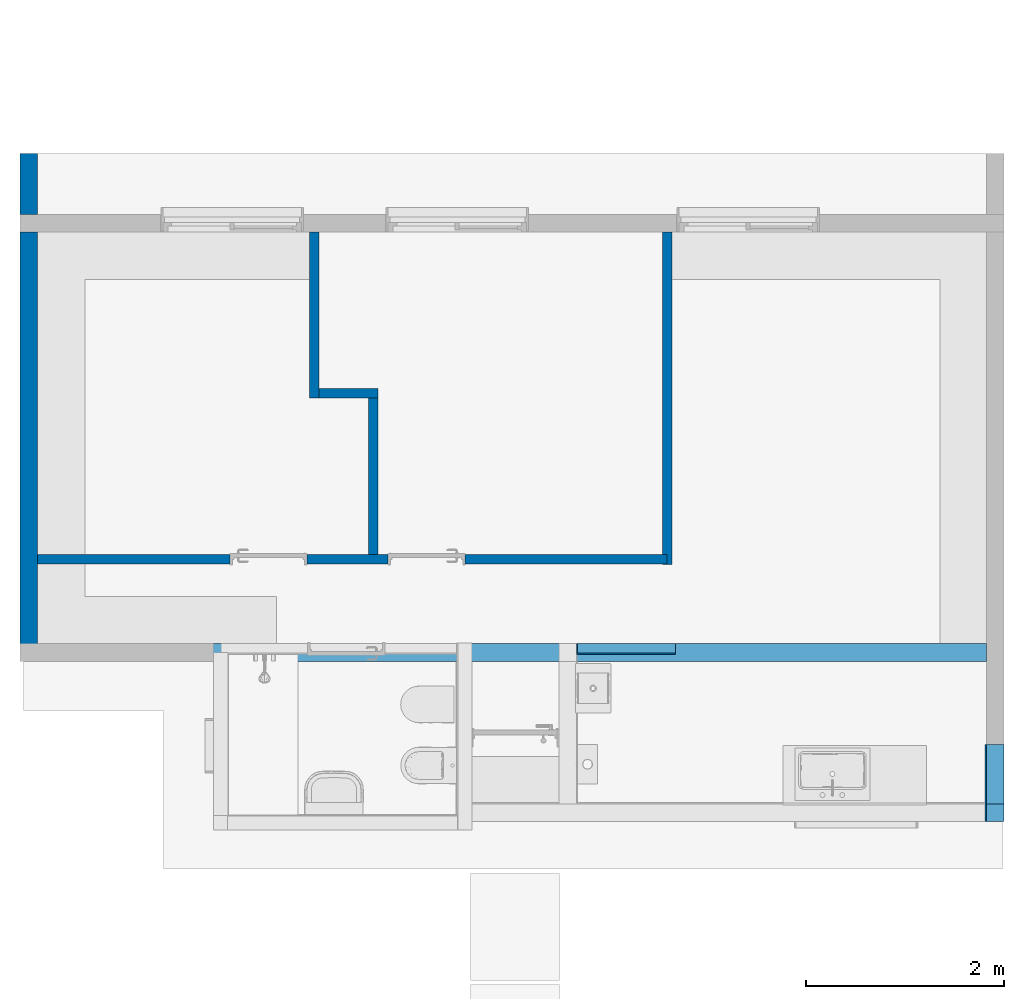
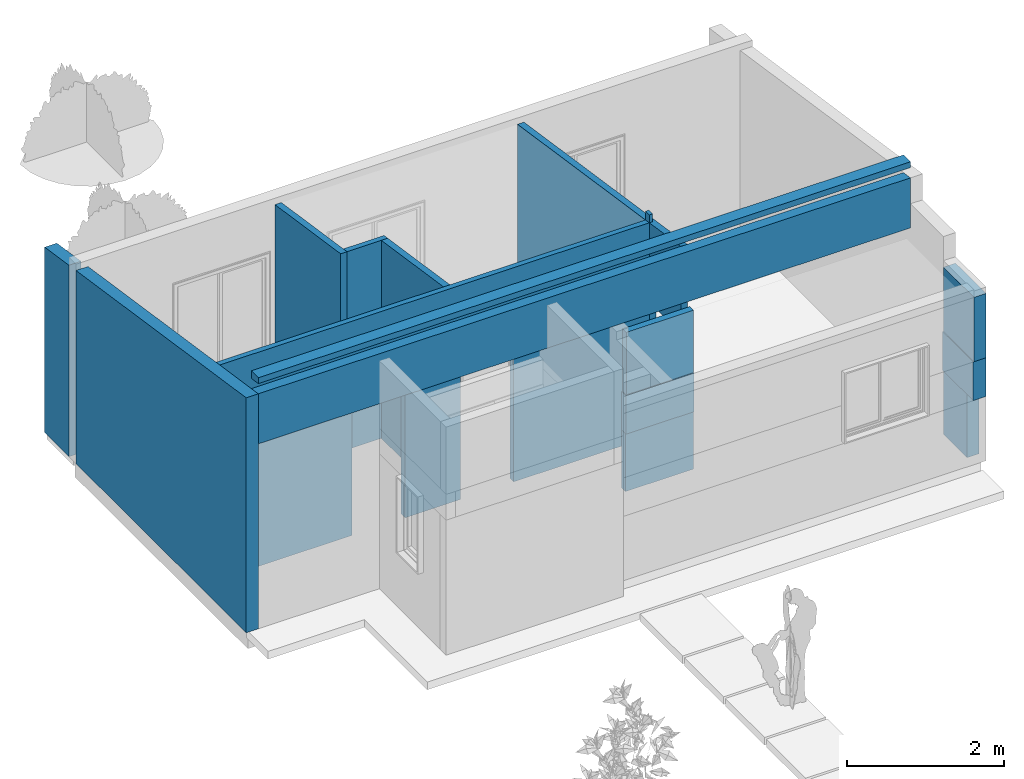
# One storey, part 2 of 10: 14 walls, 4 openings.
"""IFC2X3 building model written with IfcOpenShell, lengths in metres."""

from ifc_helpers import new_model, entity, si_unit, converted_unit, derived_unit, direction, frame, frame_2d, origin, origin_2d_with_axis, place, context, subcontext, project, spatial, polyline, rectangle, extrude, clip, bounded_halfspace, material, layer, layer_set, layer_usage, type_object, element, save


model = new_model("IFC2X3")

# Units and contexts
model_context = context("Model", 3, precision=1e-05, world=origin(), true_north=direction((6.12303176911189e-17, 1.0)))
body_context = subcontext(model_context, "Body", "Model", "MODEL_VIEW")
ifc_project = project(units=[si_unit("LENGTHUNIT", "METRE"), si_unit("AREAUNIT", "SQUARE_METRE"), si_unit("VOLUMEUNIT", "CUBIC_METRE"), converted_unit("PLANEANGLEUNIT", "DEGREE", entity("IfcRatioMeasure", 0.0174532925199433), si_unit("PLANEANGLEUNIT", "RADIAN"), dimensions=[0, 0, 0, 0, 0, 0, 0]), si_unit("MASSUNIT", "GRAM", prefix="KILO"), derived_unit("MASSDENSITYUNIT", [(si_unit("MASSUNIT", "GRAM", prefix="KILO"), 1), (si_unit("LENGTHUNIT", "METRE"), -3)]), si_unit("TIMEUNIT", "SECOND"), si_unit("FREQUENCYUNIT", "HERTZ"), si_unit("THERMODYNAMICTEMPERATUREUNIT", "DEGREE_CELSIUS"), derived_unit("THERMALTRANSMITTANCEUNIT", [(si_unit("MASSUNIT", "GRAM", prefix="KILO"), 1), (si_unit("THERMODYNAMICTEMPERATUREUNIT", "KELVIN"), -1), (si_unit("TIMEUNIT", "SECOND"), -3)]), derived_unit("VOLUMETRICFLOWRATEUNIT", [(si_unit("LENGTHUNIT", "METRE"), 3), (si_unit("TIMEUNIT", "SECOND"), -1)]), si_unit("ELECTRICCURRENTUNIT", "AMPERE"), si_unit("ELECTRICVOLTAGEUNIT", "VOLT"), si_unit("POWERUNIT", "WATT"), si_unit("FORCEUNIT", "NEWTON", prefix="KILO"), si_unit("ILLUMINANCEUNIT", "LUX"), si_unit("LUMINOUSFLUXUNIT", "LUMEN"), si_unit("LUMINOUSINTENSITYUNIT", "CANDELA"), derived_unit("USERDEFINED", [(si_unit("MASSUNIT", "GRAM", prefix="KILO"), -1), (si_unit("LENGTHUNIT", "METRE"), -2), (si_unit("TIMEUNIT", "SECOND"), 3), (si_unit("LUMINOUSFLUXUNIT", "LUMEN"), 1)]), derived_unit("LINEARVELOCITYUNIT", [(si_unit("LENGTHUNIT", "METRE"), 1), (si_unit("TIMEUNIT", "SECOND"), -1)]), si_unit("PRESSUREUNIT", "PASCAL"), derived_unit("USERDEFINED", [(si_unit("LENGTHUNIT", "METRE"), -2), (si_unit("MASSUNIT", "GRAM", prefix="KILO"), 1), (si_unit("TIMEUNIT", "SECOND"), -2)])], contexts=[model_context])

# Site, building, storey
site_placement = place(None, origin())
site = spatial("IfcSite", under=ifc_project, at=site_placement, Name="Surface", CompositionType="ELEMENT")
building_placement = place(site_placement, origin())
building = spatial("IfcBuilding", under=site, at=building_placement, CompositionType="ELEMENT")
storey_placement = place(building_placement, origin())
storey = spatial("IfcBuildingStorey", under=building, at=storey_placement, Name="Nivel 0.0", CompositionType="ELEMENT", Elevation=0.0)

# Wall
ifc_material_1 = material(Name="EIFS")
ifc_layer_1 = layer(ifc_material_1, 0.05)
ifc_material_2 = material(Name="Aislación hidrófuga")
ifc_layer_2 = layer(ifc_material_2, 0.005)
ifc_material_3 = material(Name="OSB")
ifc_layer_3 = layer(ifc_material_3, 0.011)
ifc_material_4 = material(Name="Bastidor metálico")
ifc_layer_4 = layer(ifc_material_4, 0.1)
ifc_material_5 = material(Name="Placa cementicia")
ifc_layer_5 = layer(ifc_material_5, 0.012)
ifc_layer_set_1 = layer_set([ifc_layer_1, ifc_layer_2, ifc_layer_3, ifc_layer_4, ifc_layer_5], Name="Basic Wall:Pe-SF-001")
ifc_layer_usage_1 = layer_usage(ifc_layer_set_1, "AXIS2", "POSITIVE", -0.089)
wall_type_1 = type_object("IfcWallType", Name="Basic Wall:Pe-SF-001", PredefinedType="STANDARD", material=ifc_layer_set_1)
wall_1_placement = place(storey_placement, frame((-8.91933547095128, 3.3208520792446, -0.175816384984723), z_axis=(0.0, 0.0, 1.0), x_axis=(0.0, -1.0, 0.0)))
element("IfcWallStandardCase", 1, at=wall_1_placement, inside=storey, type_object=wall_type_1, material=ifc_layer_usage_1, Name="Basic Wall:Pe-SF-001", ObjectType="Basic Wall:Pe-SF-001", context=body_context, shape_type="Clipping", body=[
    clip(extrude(rectangle(XDim=0.616637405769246, YDim=0.178000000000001, at=frame_2d((0.308318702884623, -6.93889390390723e-18), x_axis=(-1.0, 0.0))), origin(), (0.0, 0.0, 1.0), 2.9764956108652), bounded_halfspace(frame((0.0, -0.0889999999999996, 2.88399999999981), z_axis=(-0.148340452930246, 0.0, 0.988936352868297), x_axis=(0.0, -1.0, 0.0)), False, frame((0.0, -0.0889999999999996, 2.88399999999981)), polyline([(0.0, 0.0), (0.616637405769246, 0.0), (0.616637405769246, 0.178), (0.0, 0.178), (0.0, 0.0)]))),
])

# Wall, opening
ifc_layer_usage_2 = layer_usage(ifc_layer_set_1, "AXIS2", "POSITIVE", -0.089)
wall_2_placement = place(storey_placement, frame((-8.83008547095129, -1.72304870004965, 2.69999999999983)))
wall_2 = element("IfcWallStandardCase", 2, at=wall_2_placement, inside=storey, type_object=wall_type_1, material=ifc_layer_usage_2, Name="Basic Wall:Pe-SF-001", ObjectType="Basic Wall:Pe-SF-001", context=body_context, shape_type="SweptSolid", body=[
    extrude(rectangle(XDim=9.59150000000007, YDim=0.178, at=frame_2d((4.79575000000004, 9.71445146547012e-17), x_axis=(-1.0, 0.0))), origin(), (0.0, 0.0, 1.0), 1.02820141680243),
])
opening_1_placement = place(storey_placement, frame((-8.83008547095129, -1.72304870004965, 2.69999999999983)))
element("IfcOpeningElement", 3, at=opening_1_placement, cuts=wall_2, Name="Basic Wall:Pe-SF-001:1", ObjectType="Opening", context=body_context, shape_type="SweptSolid", body=[
    extrude(rectangle(XDim=0.179991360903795, YDim=9.59150000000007, at=frame_2d((-0.522788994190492, -0.0299985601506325), x_axis=(0.0, 1.0))), frame((5.31853899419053, 0.0296666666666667, 0.760318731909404), z_axis=(0.0, 0.148340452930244, 0.988936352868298), x_axis=(1.0, 0.0, 0.0)), (0.0, -0.148340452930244, 0.988936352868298), 0.159226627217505),
])

# Walls
ifc_layer_6 = layer(ifc_material_1, 0.05)
ifc_layer_7 = layer(ifc_material_2, 0.005)
ifc_layer_8 = layer(ifc_material_3, 0.011)
ifc_layer_9 = layer(ifc_material_4, 0.1)
ifc_material_6 = material(Name="Placa roca de Yeso 12,5mm")
ifc_layer_10 = layer(ifc_material_6, 0.012)
ifc_layer_set_2 = layer_set([ifc_layer_6, ifc_layer_7, ifc_layer_8, ifc_layer_9, ifc_layer_10], Name="Basic Wall:Pe-SF-002")
ifc_layer_usage_3 = layer_usage(ifc_layer_set_2, "AXIS2", "POSITIVE", -0.089)
wall_type_2 = type_object("IfcWallType", Name="Basic Wall:Pe-SF-002", PredefinedType="STANDARD", material=ifc_layer_set_2)
wall_3_placement = place(storey_placement, frame((0.850414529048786, -3.43054870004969, 1.6), z_axis=(0.0, 0.0, 1.0), x_axis=(0.0, 1.0, 0.0)))
element("IfcWallStandardCase", 4, at=wall_3_placement, inside=storey, type_object=wall_type_2, material=ifc_layer_usage_3, Name="Basic Wall:Pe-SF-002", ObjectType="Basic Wall:Pe-SF-002", context=body_context, shape_type="SweptSolid", body=[
    extrude(rectangle(XDim=0.77876337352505, YDim=0.178, at=frame_2d((0.389381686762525, 2.08166817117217e-17), x_axis=(-1.0, 0.0))), origin(), (0.0, 0.0, 1.0), 1.0),
])
ifc_layer_usage_4 = layer_usage(ifc_layer_set_2, "AXIS2", "POSITIVE", -0.089)
wall_4_placement = place(storey_placement, frame((-8.91908547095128, 2.52621467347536, -0.175), z_axis=(0.0, 0.0, 1.0), x_axis=(0.0, -1.0, 0.0)))
element("IfcWallStandardCase", 5, at=wall_4_placement, inside=storey, type_object=wall_type_2, material=ifc_layer_usage_4, Name="Basic Wall:Pe-SF-002", ObjectType="Basic Wall:Pe-SF-002", context=body_context, shape_type="Clipping", body=[
    clip(clip(clip(extrude(rectangle(XDim=4.33826337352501, YDim=0.178000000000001, at=frame_2d((2.1691316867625, -7.63278329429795e-17), x_axis=(-1.0, 0.0))), origin(), (0.0, 0.0, 1.0), 3.65311873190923), bounded_halfspace(frame((0.0, -0.0889999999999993, 3.00237922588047), z_axis=(-0.148340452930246, 0.0, 0.988936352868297), x_axis=(0.0, -1.0, 0.0)), False, frame((0.0, -0.0889999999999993, 3.00237922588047)), polyline([(0.0, 0.0), (4.33826337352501, 0.0), (4.33826337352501, 0.177999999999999), (3.35593684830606, 0.177999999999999), (3.26093684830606, 0.178), (0.0, 0.178), (0.0, 0.0)]))), bounded_halfspace(frame((4.16076337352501, -0.0339999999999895, 0.15)), True, frame((4.16076337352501, -0.0339999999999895, 0.15)), polyline([(0.0, 0.0), (0.0, 0.122999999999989), (-4.16076337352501, 0.122999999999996), (-4.16076337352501, 0.0), (0.0, 0.0)]))), bounded_halfspace(frame((0.0, -0.0339999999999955, 0.15), z_axis=(0.0, -1.0, 0.0), x_axis=(0.0, 0.0, 1.0)), True, frame((0.0, -0.0339999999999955, 0.15), z_axis=(0.0, -1.0, 0.0), x_axis=(0.0, 0.0, 1.0)), polyline([(0.0, 0.0), (-0.15, 0.0), (-0.15, -4.16076337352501), (0.0, -4.16076337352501), (0.0, 0.0)]))),
])
ifc_layer_usage_5 = layer_usage(ifc_layer_set_2, "AXIS2", "POSITIVE", -0.089)
wall_5_placement = place(storey_placement, frame((0.850414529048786, -3.25254870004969, 0.0), z_axis=(0.0, 0.0, 1.0), x_axis=(0.0, 1.0, 0.0)))
element("IfcWallStandardCase", 6, at=wall_5_placement, inside=storey, type_object=wall_type_2, material=ifc_layer_usage_5, Name="Basic Wall:Pe-SF-002", ObjectType="Basic Wall:Pe-SF-002", context=body_context, shape_type="SweptSolid", body=[
    extrude(rectangle(XDim=0.600763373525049, YDim=0.178, at=frame_2d((0.300381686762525, 1.38777878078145e-17), x_axis=(-1.0, 0.0))), origin(), (0.0, 0.0, 1.0), 1.0),
])
ifc_layer_11 = layer(ifc_material_6, 0.0125)
ifc_layer_12 = layer(ifc_material_4, 0.07)
ifc_layer_13 = layer(ifc_material_6, 0.0125)
ifc_layer_set_3 = layer_set([ifc_layer_11, ifc_layer_12, ifc_layer_13], Name="Basic Wall:Pi-SF-050")
ifc_layer_usage_6 = layer_usage(ifc_layer_set_3, "AXIS2", "NEGATIVE", 0.0475)
wall_type_3 = type_object("IfcWallType", Name="Basic Wall:Pi-SF-050", PredefinedType="STANDARD", material=ifc_layer_set_3)
wall_6_placement = place(storey_placement, frame((-6.03458559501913, 2.52621467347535, 0.0), z_axis=(0.0, 0.0, 1.0), x_axis=(0.0, -1.0, 0.0)))
element("IfcWallStandardCase", 7, at=wall_6_placement, inside=storey, type_object=wall_type_3, material=ifc_layer_usage_6, Name="Basic Wall:Pi-SF-050", ObjectType="Basic Wall:Pi-SF-050", context=body_context, shape_type="Clipping", body=[
    clip(extrude(rectangle(XDim=1.67500028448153, YDim=0.0950000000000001, at=frame_2d((0.837500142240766, 5.20417042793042e-17), x_axis=(-1.0, 0.0))), origin(), (0.0, 0.0, 1.0), 3.07862926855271), bounded_halfspace(frame((0.0, -0.0475000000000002, 2.82737922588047), z_axis=(-0.148340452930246, 0.0, 0.988936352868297), x_axis=(0.0, -1.0, 0.0)), False, frame((0.0, -0.0475000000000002, 2.82737922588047)), polyline([(0.0, 0.0), (1.67500028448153, 0.0), (1.67500028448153, 0.0950000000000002), (1.58000028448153, 0.095), (0.0, 0.0950000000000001), (0.0, 0.0)]))),
])
ifc_layer_usage_7 = layer_usage(ifc_layer_set_3, "AXIS2", "NEGATIVE", 0.0475)
wall_7_placement = place(storey_placement, frame((-5.98708559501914, 0.898714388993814, 0.0)))
element("IfcWallStandardCase", 8, at=wall_7_placement, inside=storey, type_object=wall_type_3, material=ifc_layer_usage_7, Name="Basic Wall:Pi-SF-050", ObjectType="Basic Wall:Pi-SF-050", context=body_context, shape_type="Clipping", body=[
    clip(extrude(rectangle(XDim=0.597499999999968, YDim=0.0950000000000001, at=frame_2d((0.298749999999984, -3.46944695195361e-18), x_axis=(-1.0, 0.0))), origin(), (0.0, 0.0, 1.0), 3.07862926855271), bounded_halfspace(frame((0.0, -0.0475, 3.0786292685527), z_axis=(0.0, 0.148340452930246, 0.988936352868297), x_axis=(-1.0, 0.0, 0.0)), False, frame((0.0, -0.0475, 3.0786292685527)), polyline([(0.0, 0.0), (0.502499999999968, 0.0), (0.597499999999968, 0.0), (0.597499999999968, 0.0950000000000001), (0.0, 0.0950000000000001), (0.0, 0.0)]))),
])
ifc_layer_usage_8 = layer_usage(ifc_layer_set_3, "AXIS2", "POSITIVE", -0.0475)
wall_8_placement = place(storey_placement, frame((-5.43708559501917, 0.851214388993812, 0.0), z_axis=(0.0, 0.0, 1.0), x_axis=(0.0, -1.0, 0.0)))
element("IfcWallStandardCase", 9, at=wall_8_placement, inside=storey, type_object=wall_type_3, material=ifc_layer_usage_8, Name="Basic Wall:Pi-SF-050", ObjectType="Basic Wall:Pi-SF-050", context=body_context, shape_type="Clipping", body=[
    clip(extrude(rectangle(XDim=1.58593656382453, YDim=0.0950000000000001, at=frame_2d((0.792968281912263, 0.0), x_axis=(-1.0, 0.0))), origin(), (0.0, 0.0, 1.0), 3.31651975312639), bounded_halfspace(frame((0.0, -0.0475, 3.07862926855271), z_axis=(-0.148340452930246, 0.0, 0.988936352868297), x_axis=(0.0, -1.0, 0.0)), False, frame((0.0, -0.0475, 3.07862926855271)), polyline([(0.0, 0.0), (1.58593656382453, 0.0), (1.58593656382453, 0.0950000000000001), (0.0, 0.0950000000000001), (0.0, 0.0)]))),
])

# Wall, openings
ifc_layer_usage_9 = layer_usage(ifc_layer_set_3, "AXIS2", "NEGATIVE", 0.0475)
wall_9_placement = place(storey_placement, frame((-8.83008547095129, -0.782222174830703, 0.0)))
wall_9 = element("IfcWallStandardCase", 10, at=wall_9_placement, inside=storey, type_object=wall_type_3, material=ifc_layer_usage_9, Name="Basic Wall:Pi-SF-050", ObjectType="Basic Wall:Pi-SF-050", context=body_context, shape_type="Clipping", body=[
    clip(extrude(rectangle(XDim=6.36411698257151, YDim=0.0950000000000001, at=frame_2d((3.18205849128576, -3.12250225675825e-17), x_axis=(-1.0, 0.0))), origin(), (0.0, 0.0, 1.0), 3.33076975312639), bounded_halfspace(frame((0.0, -0.0474999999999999, 3.33076975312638), z_axis=(0.0, 0.148340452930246, 0.988936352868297), x_axis=(-1.0, 0.0, 0.0)), False, frame((0.0, -0.0474999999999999, 3.33076975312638)), polyline([(0.0, 0.0), (6.31661698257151, 0.0), (6.36411698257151, 0.0), (6.36411698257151, 0.0949999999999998), (6.31661698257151, 0.0949999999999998), (3.44049987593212, 0.0949999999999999), (3.34549987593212, 0.0949999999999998), (0.0, 0.0949999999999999), (0.0, 0.0)]))),
])
opening_2_placement = place(wall_9_placement, frame((1.94299987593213, -0.0475000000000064, -0.000816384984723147)))
element("IfcOpeningElement", 11, at=opening_2_placement, cuts=wall_9, Name="Puerta Interior:P3:1", ObjectType="Opening", context=body_context, shape_type="SweptSolid", body=[
    extrude(rectangle(XDim=2.1, YDim=0.78, at=frame_2d((1.05, 0.39), x_axis=(1.0, 0.0))), frame((0.0, 0.0, 0.0), z_axis=(0.0, 1.0, 0.0), x_axis=(0.0, 0.0, 1.0)), (0.0, 0.0, 1.0), 0.095),
])
opening_3_placement = place(wall_9_placement, frame((3.54299987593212, -0.0475000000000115, -0.000816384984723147)))
element("IfcOpeningElement", 12, at=opening_3_placement, cuts=wall_9, Name="Puerta Interior:P3:1", ObjectType="Opening", context=body_context, shape_type="SweptSolid", body=[
    extrude(rectangle(XDim=2.1, YDim=0.78, at=frame_2d((1.05, 0.39), x_axis=(1.0, 0.0))), frame((0.0, 0.0, 0.0), z_axis=(0.0, 1.0, 0.0), x_axis=(0.0, 0.0, 1.0)), (0.0, 0.0, 1.0), 0.095),
])

# Wall, opening
ifc_layer_usage_10 = layer_usage(ifc_layer_set_3, "AXIS2", "NEGATIVE", 0.0475)
wall_10_placement = place(storey_placement, frame((-2.46596848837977, -1.63404870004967, 0.0), z_axis=(0.0, 0.0, 1.0), x_axis=(0.0, 1.0, 0.0)))
wall_10 = element("IfcWallStandardCase", 13, at=wall_10_placement, inside=storey, type_object=wall_type_3, material=ifc_layer_usage_10, Name="Basic Wall:Pi-SF-050", ObjectType="Basic Wall:Pi-SF-050", context=body_context, shape_type="Clipping", body=[
    clip(clip(extrude(rectangle(XDim=4.16026337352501, YDim=0.0950000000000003, at=frame_2d((2.0801316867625, 1.66533453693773e-16), x_axis=(-1.0, 0.0))), origin(), (0.0, 0.0, 1.0), 3.45141873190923), bounded_halfspace(frame((0.0, -0.0475, 3.45141873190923), z_axis=(0.148340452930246, 0.0, 0.988936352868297), x_axis=(0.0, 1.0, 0.0)), False, frame((0.0, -0.0475, 3.45141873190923)), polyline([(0.0, 0.0), (4.16026337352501, 0.0), (4.16026337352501, 0.0949999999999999), (0.89932652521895, 0.0950000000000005), (0.89932652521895, 0.0474999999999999), (0.804326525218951, 0.0475000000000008), (0.80432652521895, 0.0949999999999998), (0.0, 0.0950000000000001), (0.0, 0.0)]))), bounded_halfspace(frame((0.804326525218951, 0.0, 0.0), z_axis=(0.0, -1.0, 0.0), x_axis=(1.0, 0.0, 0.0)), True, frame((0.804326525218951, 0.0, 0.0), z_axis=(0.0, -1.0, 0.0), x_axis=(1.0, 0.0, 0.0)), polyline([(0.0, 0.0), (0.0949999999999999, 0.0), (0.094999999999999, 3.31651975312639), (0.0, 3.33076975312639), (0.0, 0.0)]))),
])
opening_4_placement = place(wall_10_placement, origin())
element("IfcOpeningElement", 14, at=opening_4_placement, cuts=wall_10, Name="Basic Wall:Pi-SF-050", ObjectType="Opening", context=body_context, shape_type="SweptSolid", body=[
    extrude(rectangle(XDim=2.1, YDim=0.8, at=origin_2d_with_axis()), frame((0.40194861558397, -0.0474999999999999, 1.05), z_axis=(0.0, 1.0, 0.0), x_axis=(0.0, 0.0, -1.0)), (0.0, 0.0, 1.0), 0.0949999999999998),
])

# Walls
ifc_layer_usage_11 = layer_usage(ifc_layer_set_3, "AXIS2", "NEGATIVE", 0.0475)
wall_11_placement = place(storey_placement, frame((-3.3825136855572, -1.68154870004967, 0.0)))
element("IfcWallStandardCase", 15, at=wall_11_placement, inside=storey, type_object=wall_type_3, material=ifc_layer_usage_11, Name="Basic Wall:Pi-SF-050", ObjectType="Basic Wall:Pi-SF-050", context=body_context, shape_type="SweptSolid", body=[
    extrude(rectangle(XDim=1.00154519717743, YDim=0.0950000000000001, at=frame_2d((0.500772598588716, -2.08166817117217e-17), x_axis=(-1.0, 0.0))), origin(), (0.0, 0.0, 1.0), 0.9),
])
ifc_layer_usage_12 = layer_usage(ifc_layer_set_3, "AXIS2", "NEGATIVE", 0.0475)
wall_12_placement = place(storey_placement, frame((-3.3825136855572, -1.68154870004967, 1.5)))
element("IfcWallStandardCase", 16, at=wall_12_placement, inside=storey, type_object=wall_type_3, material=ifc_layer_usage_12, Name="Basic Wall:Pi-SF-050", ObjectType="Basic Wall:Pi-SF-050", context=body_context, shape_type="SweptSolid", body=[
    extrude(rectangle(XDim=0.989545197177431, YDim=0.0950000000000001, at=frame_2d((0.506772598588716, 0.0), x_axis=(-1.0, 0.0))), origin(), (0.0, 0.0, 1.0), 0.969999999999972),
])
ifc_layer_14 = layer(ifc_material_1, 0.05)
ifc_layer_15 = layer(ifc_material_2, 0.005)
ifc_layer_16 = layer(ifc_material_3, 0.011)
ifc_layer_17 = layer(ifc_material_4, 0.1)
ifc_layer_18 = layer(ifc_material_6, 0.012)
ifc_material_7 = material(Name="Revestimiento Cerámico muro")
ifc_layer_19 = layer(ifc_material_7, 0.012)
ifc_layer_set_4 = layer_set([ifc_layer_14, ifc_layer_15, ifc_layer_16, ifc_layer_17, ifc_layer_18, ifc_layer_19], Name="Basic Wall:Pe-SF-003")
ifc_layer_usage_13 = layer_usage(ifc_layer_set_4, "AXIS2", "POSITIVE", -0.095)
wall_type_4 = type_object("IfcWallType", Name="Basic Wall:Pe-SF-003", PredefinedType="STANDARD", material=ifc_layer_set_4)
wall_13_placement = place(storey_placement, frame((0.844414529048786, -3.43054870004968, 1.0), z_axis=(0.0, 0.0, 1.0), x_axis=(0.0, 1.0, 0.0)))
element("IfcWallStandardCase", 17, at=wall_13_placement, inside=storey, type_object=wall_type_4, material=ifc_layer_usage_13, Name="Basic Wall:Pe-SF-003", ObjectType="Basic Wall:Pe-SF-003", context=body_context, shape_type="SweptSolid", body=[
    extrude(rectangle(XDim=0.778763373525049, YDim=0.19, at=frame_2d((0.389381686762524, 2.08166817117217e-17), x_axis=(-1.0, 0.0))), origin(), (0.0, 0.0, 1.0), 0.6),
])
ifc_layer_20 = layer(ifc_material_6, 0.0125)
ifc_layer_21 = layer(ifc_material_4, 0.07)
ifc_layer_22 = layer(ifc_material_6, 0.0125)
ifc_layer_23 = layer(ifc_material_7, 0.0125)
ifc_layer_set_5 = layer_set([ifc_layer_20, ifc_layer_21, ifc_layer_22, ifc_layer_23], Name="Basic Wall:Pi-SF-051")
ifc_layer_usage_14 = layer_usage(ifc_layer_set_5, "AXIS2", "NEGATIVE", 0.05375)
wall_type_5 = type_object("IfcWallType", Name="Basic Wall:Pi-SF-051", PredefinedType="STANDARD", material=ifc_layer_set_5)
wall_14_placement = place(storey_placement, frame((-3.3825136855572, -1.68779870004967, 0.9)))
element("IfcWallStandardCase", 18, at=wall_14_placement, inside=storey, type_object=wall_type_5, material=ifc_layer_usage_14, Name="Basic Wall:Pi-SF-051", ObjectType="Basic Wall:Pi-SF-051", context=body_context, shape_type="SweptSolid", body=[
    extrude(rectangle(XDim=1.00154519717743, YDim=0.1075, at=frame_2d((0.500772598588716, -2.08166817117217e-17), x_axis=(-1.0, 0.0))), origin(), (0.0, 0.0, 1.0), 0.6),
])

save(model, "model.ifc")
